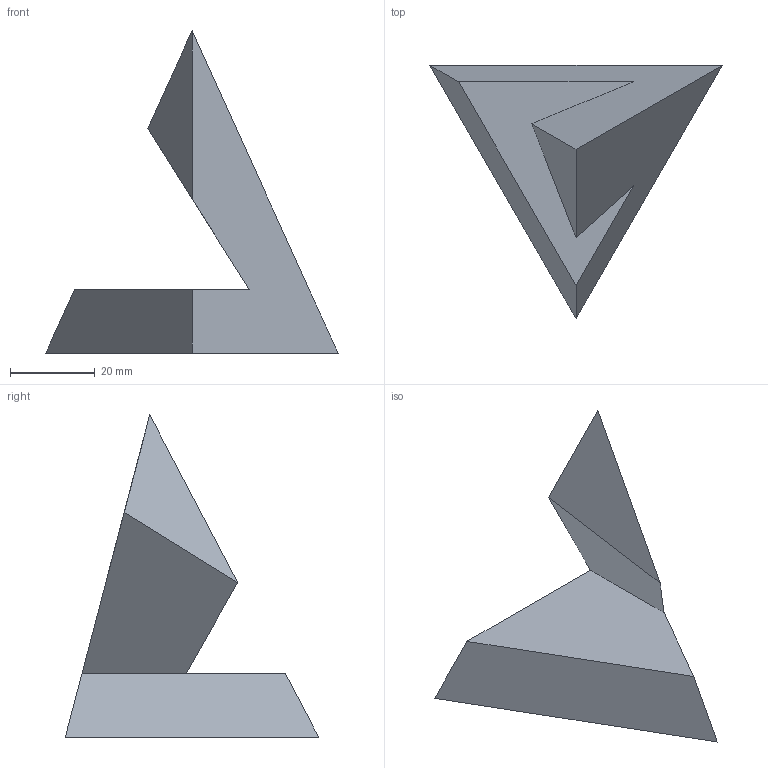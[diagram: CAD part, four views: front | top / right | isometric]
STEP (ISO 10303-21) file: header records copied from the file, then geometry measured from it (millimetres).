
FILE_DESCRIPTION(('Open CASCADE Model'),'2;1');
FILE_NAME('Open CASCADE Shape Model','2026-11-02T09:50:24',('Author'),( 'Open CASCADE'),'Open CASCADE STEP processor 7.8','Open CASCADE 7.8' ,'Unknown');
FILE_SCHEMA(('AUTOMOTIVE_DESIGN { 1 0 10303 214 1 1 1 1 }'));
Length unit declared in the file: millimetre
Products named in the file (1): Open CASCADE STEP translator 7.8 1
Bounding box: 69 x 59.76 x 76 mm (x, y, z)
Volume: 35869.2 mm3; surface area: 9929.7 mm2
Topology: 1 solids, 1 shells, 7 faces, 15 edges, 10 vertices
Faces by surface type: plane 7
Entity records: 367 total; most frequent: CARTESIAN_POINT 90, DIRECTION 34, ORIENTED_EDGE 30, PCURVE 30, DEFINITIONAL_REPRESENTATION 30, B_SPLINE_CURVE_WITH_KNOTS 27, LINE 18, VECTOR 18
